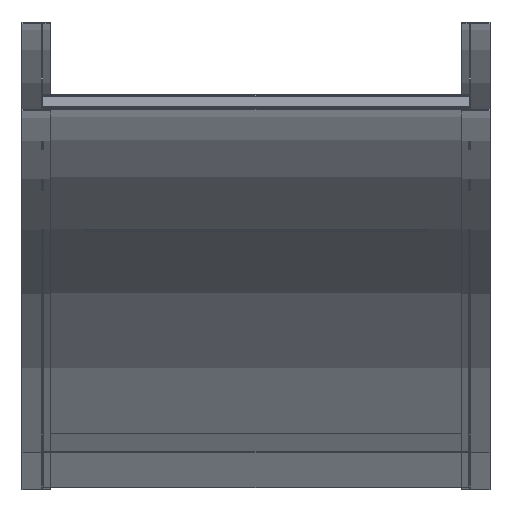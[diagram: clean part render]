
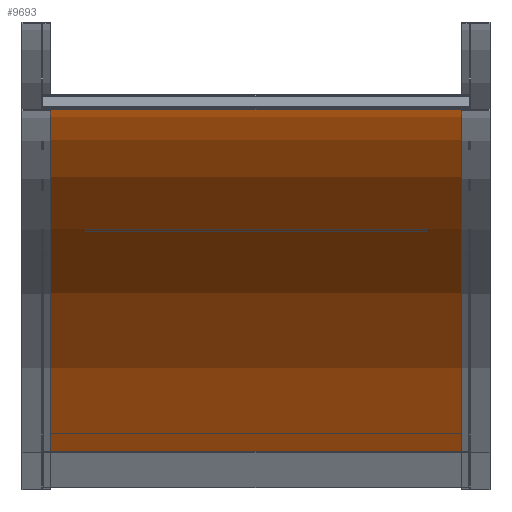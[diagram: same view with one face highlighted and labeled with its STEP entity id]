
A CAD part, top view. The second image highlights one B-rep face of the part: STEP entity #9693.
In plain terms, the highlighted cylindrical face has radius 1221.74 mm (diameter 2443.48 mm), a partial arc.
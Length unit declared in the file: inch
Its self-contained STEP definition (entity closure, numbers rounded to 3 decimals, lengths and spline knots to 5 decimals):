
#9527=DIRECTION('',(-1.,0.,0.));
#9528=VECTOR('',#9527,29.875);
#9529=CARTESIAN_POINT('',(14.9375,0.,0.));
#9530=LINE('',#9529,#9528);
#9531=CARTESIAN_POINT('',(14.9375,48.1,0.));
#9532=DIRECTION('',(-1.,0.,0.));
#9533=DIRECTION('',(0.,-1.,0.));
#9534=AXIS2_PLACEMENT_3D('',#9531,#9532,#9533);
#9557=CARTESIAN_POINT('',(-14.9375,48.1,0.));
#9558=DIRECTION('',(-1.,0.,0.));
#9559=DIRECTION('',(0.,-1.,0.));
#9560=AXIS2_PLACEMENT_3D('',#9557,#9558,#9559);
#9583=DIRECTION('',(-1.,0.,0.));
#9584=VECTOR('',#9583,29.875);
#9585=CARTESIAN_POINT('',(14.9375,24.05,41.65582));
#9586=LINE('',#9585,#9584);
#9631=CARTESIAN_POINT('',(14.9375,0.,0.));
#9633=VERTEX_POINT('',#9631);
#9637=CARTESIAN_POINT('',(-14.9375,0.,0.));
#9638=VERTEX_POINT('',#9637);
#9647=CARTESIAN_POINT('',(14.9375,24.05,41.65582));
#9648=VERTEX_POINT('',#9647);
#9651=CARTESIAN_POINT('',(-14.9375,24.05,41.65582));
#9652=VERTEX_POINT('',#9651);
#9679=CARTESIAN_POINT('',(14.9375,48.1,0.));
#9680=DIRECTION('',(-1.,0.,0.));
#9681=DIRECTION('',(0.,0.,1.));
#9682=AXIS2_PLACEMENT_3D('',#9679,#9680,#9681);
#9683=CYLINDRICAL_SURFACE('',#9682,48.1);
#9685=ORIENTED_EDGE('',*,*,#9684,.T.);
#9687=ORIENTED_EDGE('',*,*,#9686,.T.);
#9689=ORIENTED_EDGE('',*,*,#9688,.F.);
#9690=ORIENTED_EDGE('',*,*,#9668,.F.);
#9691=EDGE_LOOP('',(#9685,#9687,#9689,#9690));
#9692=FACE_OUTER_BOUND('',#9691,.F.);
#9693=ADVANCED_FACE('',(#9692),#9683,.F.);
#9535=CIRCLE('',#9534,48.1);
#9561=CIRCLE('',#9560,48.1);
#9668=EDGE_CURVE('',#9633,#9638,#9530,.T.);
#9684=EDGE_CURVE('',#9633,#9648,#9535,.T.);
#9686=EDGE_CURVE('',#9648,#9652,#9586,.T.);
#9688=EDGE_CURVE('',#9638,#9652,#9561,.T.);
